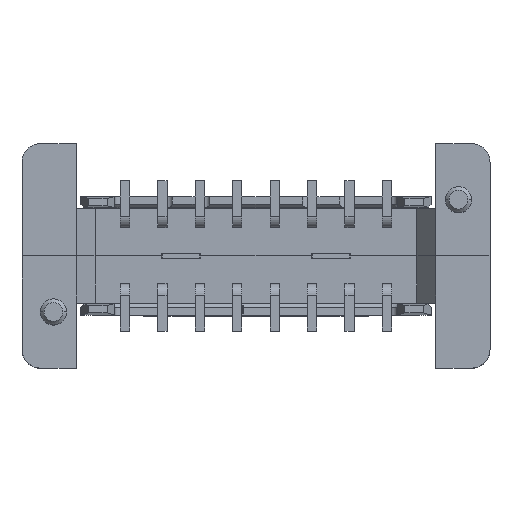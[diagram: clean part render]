
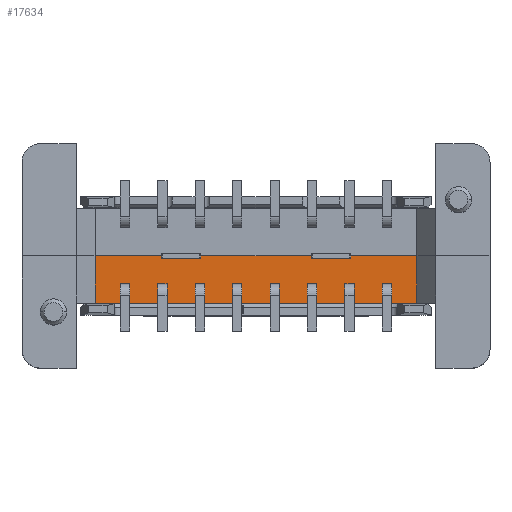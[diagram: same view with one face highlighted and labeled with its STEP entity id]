
A CAD part, top view. The second image highlights one B-rep face of the part: STEP entity #17634.
In plain terms, the highlighted planar face has unit normal (0, 0, 1) as drawn and (0, 0, -1) by its records, which use the part's own axes.
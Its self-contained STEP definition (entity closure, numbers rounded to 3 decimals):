
#595=DIRECTION('',(-1.,0.,0.));
#596=VECTOR('',#595,1.06);
#597=CARTESIAN_POINT('',(2.53,-0.24,-10.35));
#598=LINE('',#597,#596);
#616=DIRECTION('',(-1.,0.,0.));
#617=VECTOR('',#616,1.06);
#618=CARTESIAN_POINT('',(-1.47,-0.24,-10.35));
#619=LINE('',#618,#617);
#8230=DIRECTION('',(0.,-1.,0.));
#8231=VECTOR('',#8230,0.06);
#8232=CARTESIAN_POINT('',(-2.53,-0.24,-10.35));
#8233=LINE('',#8232,#8231);
#8281=DIRECTION('',(0.,-1.,0.));
#8282=VECTOR('',#8281,0.06);
#8283=CARTESIAN_POINT('',(-1.47,-0.24,-10.35));
#8284=LINE('',#8283,#8282);
#8288=DIRECTION('',(1.,0.,0.));
#8289=VECTOR('',#8288,2.94);
#8290=CARTESIAN_POINT('',(-1.47,-0.3,-10.35));
#8291=LINE('',#8290,#8289);
#8295=DIRECTION('',(0.,-1.,0.));
#8296=VECTOR('',#8295,0.06);
#8297=CARTESIAN_POINT('',(2.53,-0.24,-10.35));
#8298=LINE('',#8297,#8296);
#8302=DIRECTION('',(1.,0.,0.));
#8303=VECTOR('',#8302,1.77);
#8304=CARTESIAN_POINT('',(2.53,-0.3,-10.35));
#8305=LINE('',#8304,#8303);
#8309=DIRECTION('',(0.,-1.,0.));
#8310=VECTOR('',#8309,1.26);
#8311=CARTESIAN_POINT('',(-4.3,0.96,-10.35));
#8312=LINE('',#8311,#8310);
#8316=DIRECTION('',(1.,0.,0.));
#8317=VECTOR('',#8316,1.77);
#8318=CARTESIAN_POINT('',(-4.3,-0.3,-10.35));
#8319=LINE('',#8318,#8317);
#8365=DIRECTION('',(0.,-1.,0.));
#8366=VECTOR('',#8365,0.06);
#8367=CARTESIAN_POINT('',(1.47,-0.24,-10.35));
#8368=LINE('',#8367,#8366);
#8379=DIRECTION('',(0.,-1.,0.));
#8380=VECTOR('',#8379,1.26);
#8381=CARTESIAN_POINT('',(4.3,0.96,-10.35));
#8382=LINE('',#8381,#8380);
#8494=DIRECTION('',(1.,0.,0.));
#8495=VECTOR('',#8494,8.6);
#8496=CARTESIAN_POINT('',(-4.3,0.96,-10.35));
#8497=LINE('',#8496,#8495);
#9567=CARTESIAN_POINT('',(4.3,-0.3,-10.35));
#9568=VERTEX_POINT('',#9567);
#9569=CARTESIAN_POINT('',(2.53,-0.3,-10.35));
#9570=VERTEX_POINT('',#9569);
#9593=CARTESIAN_POINT('',(-4.3,-0.3,-10.35));
#9594=CARTESIAN_POINT('',(-2.53,-0.3,-10.35));
#9595=VERTEX_POINT('',#9593);
#9596=VERTEX_POINT('',#9594);
#9609=CARTESIAN_POINT('',(-1.47,-0.3,-10.35));
#9610=CARTESIAN_POINT('',(1.47,-0.3,-10.35));
#9611=VERTEX_POINT('',#9609);
#9612=VERTEX_POINT('',#9610);
#9613=CARTESIAN_POINT('',(4.3,0.96,-10.35));
#9614=VERTEX_POINT('',#9613);
#9615=CARTESIAN_POINT('',(-4.3,0.96,-10.35));
#9616=VERTEX_POINT('',#9615);
#10857=CARTESIAN_POINT('',(2.53,-0.24,-10.35));
#10858=CARTESIAN_POINT('',(1.47,-0.24,-10.35));
#10859=VERTEX_POINT('',#10857);
#10860=VERTEX_POINT('',#10858);
#10861=CARTESIAN_POINT('',(-1.47,-0.24,-10.35));
#10862=CARTESIAN_POINT('',(-2.53,-0.24,-10.35));
#10863=VERTEX_POINT('',#10861);
#10864=VERTEX_POINT('',#10862);
#17609=CARTESIAN_POINT('',(-3.7,0.95,-10.35));
#17610=DIRECTION('',(0.,0.,1.));
#17611=DIRECTION('',(1.,0.,0.));
#17612=AXIS2_PLACEMENT_3D('',#17609,#17610,#17611);
#17613=PLANE('',#17612);
#17614=ORIENTED_EDGE('',*,*,#11274,.F.);
#17616=ORIENTED_EDGE('',*,*,#17615,.T.);
#17618=ORIENTED_EDGE('',*,*,#17617,.T.);
#17620=ORIENTED_EDGE('',*,*,#17619,.F.);
#17621=ORIENTED_EDGE('',*,*,#11266,.F.);
#17622=ORIENTED_EDGE('',*,*,#11730,.T.);
#17623=ORIENTED_EDGE('',*,*,#11758,.T.);
#17625=ORIENTED_EDGE('',*,*,#17624,.F.);
#17627=ORIENTED_EDGE('',*,*,#17626,.F.);
#17629=ORIENTED_EDGE('',*,*,#17628,.T.);
#17630=ORIENTED_EDGE('',*,*,#17585,.T.);
#17631=ORIENTED_EDGE('',*,*,#17574,.F.);
#17632=EDGE_LOOP('',(#17614,#17616,#17618,#17620,#17621,#17622,#17623,#17625,
#17627,#17629,#17630,#17631));
#17633=FACE_OUTER_BOUND('',#17632,.F.);
#11266=EDGE_CURVE('',#10859,#10860,#598,.T.);
#11274=EDGE_CURVE('',#10863,#10864,#619,.T.);
#11730=EDGE_CURVE('',#10859,#9570,#8298,.T.);
#11758=EDGE_CURVE('',#9570,#9568,#8305,.T.);
#17574=EDGE_CURVE('',#10864,#9596,#8233,.T.);
#17585=EDGE_CURVE('',#9595,#9596,#8319,.T.);
#17615=EDGE_CURVE('',#10863,#9611,#8284,.T.);
#17617=EDGE_CURVE('',#9611,#9612,#8291,.T.);
#17619=EDGE_CURVE('',#10860,#9612,#8368,.T.);
#17624=EDGE_CURVE('',#9614,#9568,#8382,.T.);
#17626=EDGE_CURVE('',#9616,#9614,#8497,.T.);
#17628=EDGE_CURVE('',#9616,#9595,#8312,.T.);
#17634=ADVANCED_FACE('',(#17633),#17613,.F.);
